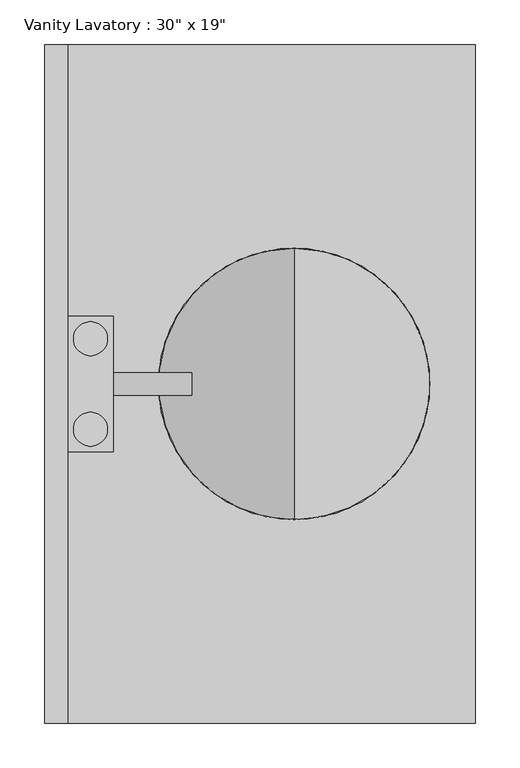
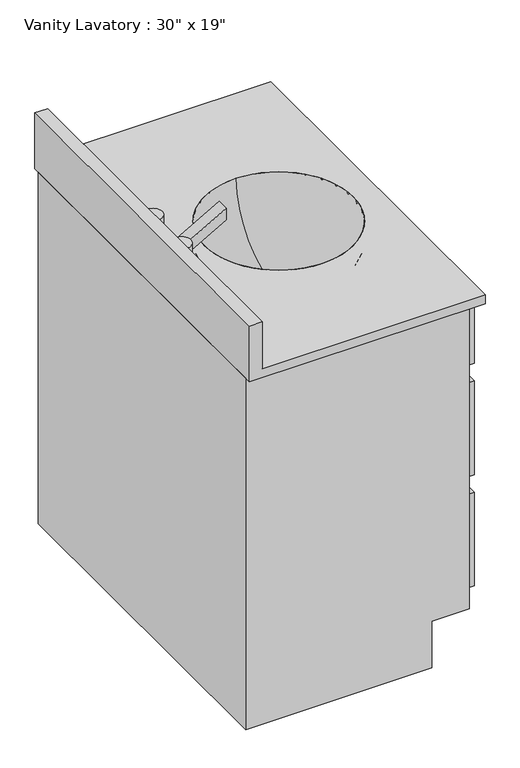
"""IFC4 building model written with IfcOpenShell, lengths in millimetres: flow terminal geometry."""

from ifc_helpers import new_model, si_unit, point, frame, origin, place, context, project, spatial, polyline, circle_curve, ellipse_curve, trimmed, faceted_brep, source, transform, mapped, element, save
from ifc_brep_helpers import plane_surface, cylinder_surface, revolved_surface, advanced_brep


def flow_terminal_b3096e9a(model_context):
    return source(origin(), model_context, "Body", "SolidModel", [
        advanced_brep(
        [(280.19375, 0.0, 628.65), (280.19375, 152.4, 781.05), (280.19375, -152.4, 781.05), (280.19375, -44.45, 628.65), (280.19375, 44.45, 628.65), (280.19375, 0.0, 628.65), (280.19375, -157.6028553, 762.0), (280.19375, 157.6028553, 762.0)],
        [
            (0, 1, circle_curve(frame((280.19375, 0.0, 781.05), z_axis=(1.0, 0.0, 0.0), x_axis=(0.0, 1.0, 0.0)), 152.4)),
            (1, 2, circle_curve(frame((280.19375, 0.0, 781.05), z_axis=(0.0, 0.0, 1.0), x_axis=(0.0, 1.0, 0.0)), 152.4)),
            (2, 0, circle_curve(frame((280.19375, 0.0, 781.05), z_axis=(1.0, 0.0, 0.0), x_axis=(0.0, -1.0, 0.0)), 152.4)),
            (2, 1, circle_curve(frame((280.19375, 0.0, 781.05), z_axis=(0.0, 0.0, 1.0), x_axis=(0.0, 1.0, 0.0)), 152.4)),
            (3, 4, circle_curve(frame((280.19375, 0.0, 628.65), z_axis=(0.0, 0.0, -1.0), x_axis=(0.0, 1.0, 0.0)), 44.45)),
            (4, 5),
            (5, 3),
            (4, 3, circle_curve(frame((280.19375, 0.0, 628.65), z_axis=(0.0, 0.0, -1.0), x_axis=(0.0, 1.0, 0.0)), 44.45)),
            (6, 7, circle_curve(frame((280.19375, 0.0, 762.0), z_axis=(0.0, 0.0, -1.0), x_axis=(0.0, 1.0, 0.0)), 157.6028553)),
            (7, 4, circle_curve(frame((280.19375, 0.0, 781.05), z_axis=(-1.0, 0.0, 0.0), x_axis=(0.0, 1.0, 0.0)), 158.75)),
            (3, 6, circle_curve(frame((280.19375, 0.0, 781.05), z_axis=(-1.0, 0.0, 0.0), x_axis=(0.0, -1.0, 0.0)), 158.75)),
            (7, 6, circle_curve(frame((280.19375, 0.0, 762.0), z_axis=(0.0, 0.0, -1.0), x_axis=(0.0, 1.0, 0.0)), 157.6028553)),
            (1, 7),
            (6, 2),
        ],
        [
            revolved_surface(trimmed(ellipse_curve(frame((280.19375, 0.0, 781.05), z_axis=(-1.0, 0.0, 0.0), x_axis=(0.0, 1.0, 0.0)), 152.4, 152.4), [point((280.19375, 152.4, 781.05))], [point((280.19375, 0.0, 628.65))], True, "CARTESIAN"), (280.19375, 0.0, 520.7), (0.0, 0.0, 1.0)),
            plane_surface(frame((280.19375, 0.0, 628.65), z_axis=(0.0, 0.0, -1.0), x_axis=(0.0, 1.0, 0.0))),
            revolved_surface(trimmed(ellipse_curve(frame((280.19375, 0.0, 781.05), z_axis=(1.0, 0.0, 0.0), x_axis=(0.0, 1.0, 0.0)), 158.75, 158.75), [point((280.19375, 44.45, 628.65))], [point((280.19375, 157.6028553, 762.0))], True, "CARTESIAN"), (280.19375, 0.0, 520.7), (0.0, 0.0, 1.0)),
            revolved_surface(polyline([(280.19375, 157.6028553, 762.0), (280.19375, 152.4, 781.05)]), (280.19375, 0.0, 520.7), (0.0, 0.0, 1.0)),
        ],
        [
            (0, [[1, 2, 3]]),
            (0, [[-3, 4, -1]]),
            (1, [[5, 6, 7]]),
            (1, [[8, -7, -6]]),
            (2, [[9, 10, -5, 11]]),
            (2, [[12, -11, -8, -10]]),
            (3, [[-2, 13, -9, 14]]),
            (3, [[-4, -14, -12, -13]]),
        ],
    ),
        advanced_brep(
        [(483.39375, -381.0, 781.05), (483.39375, 381.0, 781.05), (26.19375, 381.0, 781.05), (26.19375, -381.0, 781.05), (432.59375, 0.0, 781.05), (127.79375, 0.0, 781.05), (483.39375, 381.0, 762.0), (483.39375, -381.0, 762.0), (0.0, -381.0, 762.0), (0.0, 381.0, 762.0), (127.79375, 0.0, 762.0), (432.59375, 0.0, 762.0), (0.0, 381.0, 882.65), (26.19375, 381.0, 882.65), (0.0, -381.0, 882.65), (26.19375, -381.0, 882.65)],
        [
            (0, 1),
            (1, 2),
            (2, 3),
            (3, 0),
            (4, 5, circle_curve(frame((280.19375, 0.0, 781.05), z_axis=(0.0, 0.0, -1.0), x_axis=(1.0, 0.0, 0.0)), 152.4)),
            (5, 4, circle_curve(frame((280.19375, 0.0, 781.05), z_axis=(0.0, 0.0, -1.0), x_axis=(1.0, 0.0, 0.0)), 152.4)),
            (6, 7),
            (7, 8),
            (8, 9),
            (9, 6),
            (10, 11, circle_curve(frame((280.19375, 0.0, 762.0), z_axis=(0.0, 0.0, 1.0), x_axis=(1.0, 0.0, 0.0)), 152.4)),
            (11, 10, circle_curve(frame((280.19375, 0.0, 762.0), z_axis=(0.0, 0.0, 1.0), x_axis=(1.0, 0.0, 0.0)), 152.4)),
            (9, 12),
            (12, 13),
            (13, 2),
            (1, 6),
            (8, 14),
            (14, 12),
            (7, 0),
            (3, 15),
            (15, 14),
            (4, 11),
            (10, 5),
            (15, 13),
        ],
        [
            plane_surface(frame((0.0, 381.0, 781.05), z_axis=(0.0, 0.0, 1.0), x_axis=(-1.0, 0.0, 0.0))),
            plane_surface(frame((0.0, 381.0, 762.0), z_axis=(0.0, 0.0, -1.0), x_axis=(1.0, 0.0, 0.0))),
            plane_surface(frame((483.39375, 381.0, 781.05), z_axis=(0.0, 1.0, 0.0), x_axis=(0.0, 0.0, -1.0))),
            plane_surface(frame((0.0, 381.0, 781.05), z_axis=(-1.0, 0.0, 0.0), x_axis=(0.0, 0.0, -1.0))),
            plane_surface(frame((0.0, -381.0, 781.05), z_axis=(0.0, -1.0, 0.0), x_axis=(0.0, 0.0, -1.0))),
            plane_surface(frame((483.39375, -381.0, 781.05), z_axis=(1.0, 0.0, 0.0), x_axis=(0.0, 0.0, -1.0))),
            revolved_surface(polyline([(432.59375, 0.0, 781.05), (432.59375, 0.0, 762.0)]), (280.19375, 0.0, 762.0), (0.0, 0.0, 1.0)),
            plane_surface(frame((0.0, 381.0, 882.65), z_axis=(0.0, 0.0, 1.0), x_axis=(-1.0, 0.0, 0.0))),
            plane_surface(frame((26.19375, -381.0, 882.65), z_axis=(1.0, 0.0, 0.0), x_axis=(0.0, 0.0, -1.0))),
        ],
        [
            (0, [[1, 2, 3, 4], [5, 6]]),
            (1, [[7, 8, 9, 10], [11, 12]]),
            (2, [[-10, 13, 14, 15, -2, 16]]),
            (3, [[-13, -9, 17, 18]]),
            (4, [[-17, -8, 19, -4, 20, 21]]),
            (5, [[-1, -19, -7, -16]]),
            (6, [[22, -11, 23, -5]]),
            (6, [[-22, -6, -23, -12]]),
            (7, [[-14, -18, -21, 24]]),
            (8, [[-24, -20, -3, -15]]),
        ],
    ),
        faceted_brep([(381.79375, 368.3, 0.0), (381.79375, -368.3, 0.0), (0.0, -368.3, 0.0), (0.0, 368.3, 0.0), (0.0, 368.3, 762.0), (457.99375, 368.3, 762.0), (457.99375, 368.3, 101.6), (381.79375, 368.3, 101.6), (0.0, -368.3, 762.0), (381.79375, -368.3, 101.6), (457.99375, -368.3, 101.6), (457.99375, -368.3, 762.0), (26.19375, 342.9, 762.0), (445.29375, 342.9, 762.0), (445.29375, -342.9, 762.0), (26.19375, -342.9, 762.0), (457.99375, -342.9, 736.6), (457.99375, 342.9, 736.6), (457.99375, 342.9, 609.6), (457.99375, -342.9, 609.6), (457.99375, -342.9, 571.5), (457.99375, -88.9, 571.5), (457.99375, -88.9, 368.3), (457.99375, -342.9, 368.3), (457.99375, -342.9, 330.2), (457.99375, -88.9, 330.2), (457.99375, -88.9, 127.0), (457.99375, -342.9, 127.0), (457.99375, -50.8, 571.5), (457.99375, 342.9, 571.5), (457.99375, 342.9, 127.0), (457.99375, -50.8, 127.0), (445.29375, 342.9, 368.3), (26.19375, 342.9, 368.3), (26.19375, -342.9, 368.3), (445.29375, -342.9, 368.3), (483.39375, 342.9, 736.6), (483.39375, -342.9, 736.6), (483.39375, -342.9, 609.6), (483.39375, 342.9, 609.6), (483.39375, -88.9, 571.5), (483.39375, -342.9, 571.5), (483.39375, -342.9, 368.3), (483.39375, -88.9, 368.3), (483.39375, -88.9, 330.2), (483.39375, -342.9, 330.2), (483.39375, -342.9, 127.0), (483.39375, -88.9, 127.0), (483.39375, 342.9, 571.5), (483.39375, -50.8, 571.5), (483.39375, -50.8, 127.0), (483.39375, 342.9, 127.0)], [[[0, 1, 2, 3]], [[0, 3, 4, 5, 6, 7]], [[3, 2, 8, 4]], [[2, 1, 9, 10, 11, 8]], [[1, 0, 7, 9]], [[5, 4, 8, 11], [12, 13, 14, 15]], [[6, 10, 9, 7]], [[5, 11, 10, 6], [16, 17, 18, 19], [20, 21, 22, 23], [24, 25, 26, 27], [28, 29, 30, 31]], [[32, 33, 34, 35]], [[33, 32, 13, 12]], [[34, 33, 12, 15]], [[35, 34, 15, 14]], [[32, 35, 14, 13]], [[36, 37, 38, 39]], [[40, 41, 42, 43]], [[44, 45, 46, 47]], [[48, 49, 50, 51]], [[37, 36, 17, 16]], [[38, 37, 16, 19]], [[39, 38, 19, 18]], [[36, 39, 18, 17]], [[41, 40, 21, 20]], [[42, 41, 20, 23]], [[43, 42, 23, 22]], [[40, 43, 22, 21]], [[45, 44, 25, 24]], [[46, 45, 24, 27]], [[47, 46, 27, 26]], [[44, 47, 26, 25]], [[49, 48, 29, 28]], [[50, 49, 28, 31]], [[51, 50, 31, 30]], [[48, 51, 30, 29]]]),
        advanced_brep(
        [(32.54375, 50.8, 844.55), (70.64375, 50.8, 844.55), (32.54375, -50.8, 844.55), (70.64375, -50.8, 844.55), (32.54375, 50.8, 806.45), (70.64375, 50.8, 806.45), (32.54375, -50.8, 806.45), (70.64375, -50.8, 806.45), (76.99375, 76.2, 806.45), (26.19375, 76.2, 806.45), (26.19375, -76.2, 806.45), (76.99375, -76.2, 806.45), (76.99375, -12.7, 806.45), (76.99375, 12.7, 806.45), (76.99375, -76.2, 781.05), (26.19375, -76.2, 781.05), (26.19375, 76.2, 781.05), (76.99375, 76.2, 781.05), (76.99375, 12.7, 781.05), (76.99375, -12.7, 781.05), (165.1, -12.7, 831.85), (165.1, -12.7, 857.25), (165.1, 12.7, 857.25), (165.1, 12.7, 831.85)],
        [
            (0, 1, circle_curve(frame((51.59375, 50.8, 844.55), z_axis=(0.0, 0.0, 1.0), x_axis=(1.0, 0.0, 0.0)), 19.05)),
            (1, 0, circle_curve(frame((51.59375, 50.8, 844.55), z_axis=(0.0, 0.0, 1.0), x_axis=(1.0, 0.0, 0.0)), 19.05)),
            (2, 3, circle_curve(frame((51.59375, -50.8, 844.55), z_axis=(0.0, 0.0, 1.0), x_axis=(1.0, 0.0, 0.0)), 19.05)),
            (3, 2, circle_curve(frame((51.59375, -50.8, 844.55), z_axis=(0.0, 0.0, 1.0), x_axis=(1.0, 0.0, 0.0)), 19.05)),
            (0, 4),
            (4, 5, circle_curve(frame((51.59375, 50.8, 806.45), z_axis=(0.0, 0.0, 1.0), x_axis=(1.0, 0.0, 0.0)), 19.05)),
            (5, 1),
            (5, 4, circle_curve(frame((51.59375, 50.8, 806.45), z_axis=(0.0, 0.0, 1.0), x_axis=(1.0, 0.0, 0.0)), 19.05)),
            (2, 6),
            (6, 7, circle_curve(frame((51.59375, -50.8, 806.45), z_axis=(0.0, 0.0, 1.0), x_axis=(1.0, 0.0, 0.0)), 19.05)),
            (7, 3),
            (7, 6, circle_curve(frame((51.59375, -50.8, 806.45), z_axis=(0.0, 0.0, 1.0), x_axis=(1.0, 0.0, 0.0)), 19.05)),
            (8, 9),
            (9, 10),
            (10, 11),
            (11, 12),
            (12, 13),
            (13, 8),
            (14, 15),
            (15, 16),
            (16, 17),
            (17, 18),
            (18, 19),
            (19, 14),
            (8, 17),
            (16, 9),
            (15, 10),
            (14, 11),
            (13, 18),
            (19, 12),
            (19, 20),
            (20, 21),
            (21, 12),
            (13, 22),
            (22, 23),
            (23, 18),
            (23, 20),
            (22, 21),
        ],
        [
            plane_surface(frame((70.64375, 50.8, 844.55), z_axis=(0.0, 0.0, 1.0), x_axis=(0.0, 1.0, 0.0))),
            cylinder_surface(frame((51.59375, 50.8, 806.45), z_axis=(0.0, 0.0, 1.0), x_axis=(1.0, 0.0, 0.0)), 19.05),
            cylinder_surface(frame((51.59375, -50.8, 0.0), z_axis=(0.0, 0.0, 1.0), x_axis=(1.0, 0.0, 0.0)), 19.05),
            plane_surface(frame((26.19375, 76.2, 806.45), z_axis=(0.0, 0.0, 1.0), x_axis=(-1.0, 0.0, 0.0))),
            plane_surface(frame((26.19375, 76.2, 781.05), z_axis=(0.0, 0.0, -1.0), x_axis=(1.0, 0.0, 0.0))),
            plane_surface(frame((76.99375, 76.2, 806.45), z_axis=(0.0, 1.0, 0.0), x_axis=(0.0, 0.0, -1.0))),
            plane_surface(frame((26.19375, 76.2, 806.45), z_axis=(-1.0, 0.0, 0.0), x_axis=(0.0, 0.0, -1.0))),
            plane_surface(frame((26.19375, -76.2, 806.45), z_axis=(0.0, -1.0, 0.0), x_axis=(0.0, 0.0, -1.0))),
            plane_surface(frame((76.99375, -76.2, 806.45), z_axis=(1.0, 0.0, 0.0), x_axis=(0.0, 0.0, -1.0))),
            plane_surface(frame((76.99375, -12.7, 806.45), z_axis=(0.0, -1.0, 0.0), x_axis=(0.0, 0.0, -1.0))),
            plane_surface(frame((76.99375, 12.7, 806.45), z_axis=(0.0, 1.0, 0.0), x_axis=(0.0, 0.0, 1.0))),
            plane_surface(frame((76.99375, -12.7, 781.05), z_axis=(0.4994972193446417, 0.0, -0.8663154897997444), x_axis=(0.0, 1.0, 0.0))),
            plane_surface(frame((165.1, -12.7, 831.85), z_axis=(1.0, 0.0, 0.0), x_axis=(0.0, 1.0, 0.0))),
            plane_surface(frame((165.1, -12.7, 857.25), z_axis=(-0.4994972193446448, 0.0, 0.8663154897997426), x_axis=(0.0, 1.0, 0.0))),
        ],
        [
            (0, [[1, 2]]),
            (0, [[3, 4]]),
            (1, [[-1, 5, 6, 7]]),
            (1, [[-2, -7, 8, -5]]),
            (2, [[-3, 9, 10, 11]]),
            (2, [[-4, -11, 12, -9]]),
            (3, [[13, 14, 15, 16, 17, 18], [-6, -8], [-10, -12]]),
            (4, [[19, 20, 21, 22, 23, 24]]),
            (5, [[-13, 25, -21, 26]]),
            (6, [[-14, -26, -20, 27]]),
            (7, [[-15, -27, -19, 28]]),
            (8, [[-25, -18, 29, -22]]),
            (8, [[-28, -24, 30, -16]]),
            (9, [[31, 32, 33, -30]]),
            (10, [[34, 35, 36, -29]]),
            (11, [[-31, -23, -36, 37]]),
            (12, [[-32, -37, -35, 38]]),
            (13, [[-33, -38, -34, -17]]),
        ],
    ),
    ])


if __name__ == "__main__":
    model = new_model("IFC4")
    model_context = context("Model", 3, world=origin())
    ifc_project = project(units=[si_unit("LENGTHUNIT", "METRE", prefix="MILLI")], contexts=[model_context])
    site = spatial("IfcSite", under=ifc_project)
    building = spatial("IfcBuilding", under=site)
    placement = place(None, origin())
    flow_terminal_shape = flow_terminal_b3096e9a(model_context)
    element("IfcFlowTerminal", 1, ObjectType="Vanity Lavatory : 30\" x 19\"", at=placement, inside=building, context=model_context, shape_type="MappedRepresentation", body=[
        mapped(flow_terminal_shape, transform((0.0, 0.0, 0.0), x_axis=(1.0, 0.0, 0.0), y_axis=(0.0, 1.0, 0.0), z_axis=(0.0, 0.0, 1.0))),
    ])
    save(model, "model.ifc")
